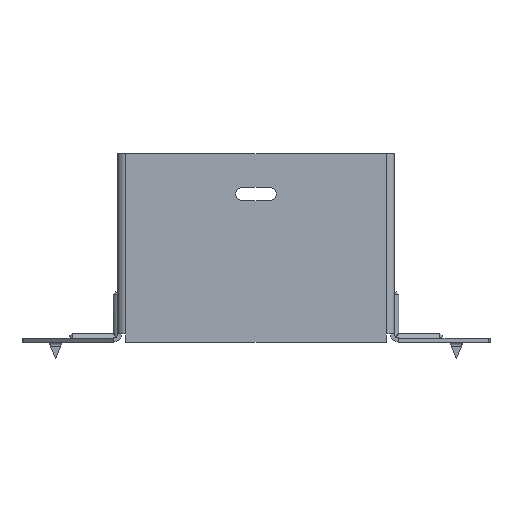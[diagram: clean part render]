
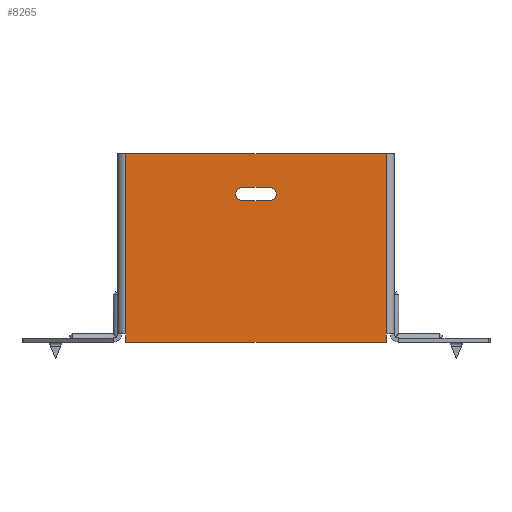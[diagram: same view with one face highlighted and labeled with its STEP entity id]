
A CAD part, front view. The second image highlights one B-rep face of the part: STEP entity #8265.
In plain terms, the highlighted planar face has unit normal (0, -1, 0).
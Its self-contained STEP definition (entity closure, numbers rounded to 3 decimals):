
#96 = DIRECTION ( 'NONE',  ( -1., 0., 0. ) ) ;
#169 = LINE ( 'NONE', #5902, #12468 ) ;
#525 = VECTOR ( 'NONE', #3708, 1000. ) ;
#640 = CARTESIAN_POINT ( 'NONE',  ( -48.5, 0., 0. ) ) ;
#748 = EDGE_LOOP ( 'NONE', ( #15293, #12878, #15558, #10838 ) ) ;
#891 = CARTESIAN_POINT ( 'NONE',  ( 5., 0., -12.5 ) ) ;
#1480 = ORIENTED_EDGE ( 'NONE', *, *, #6286, .T. ) ;
#1506 = CIRCLE ( 'NONE', #15189, 2.5 ) ;
#1630 = AXIS2_PLACEMENT_3D ( 'NONE', #13959, #10199, #10254 ) ;
#2237 = VERTEX_POINT ( 'NONE', #13781 ) ;
#2258 = LINE ( 'NONE', #10886, #525 ) ;
#2778 = EDGE_CURVE ( 'NONE', #2893, #8863, #9976, .T. ) ;
#2830 = CARTESIAN_POINT ( 'NONE',  ( 48.5, 0., -70. ) ) ;
#2893 = VERTEX_POINT ( 'NONE', #10475 ) ;
#3177 = LINE ( 'NONE', #7844, #4893 ) ;
#3708 = DIRECTION ( 'NONE',  ( 0., 0., 1. ) ) ;
#3745 = PLANE ( 'NONE',  #10349 ) ;
#3795 = CARTESIAN_POINT ( 'NONE',  ( 0., 0., 0. ) ) ;
#3934 = EDGE_CURVE ( 'NONE', #12226, #2237, #169, .T. ) ;
#3946 = ORIENTED_EDGE ( 'NONE', *, *, #5434, .T. ) ;
#4318 = EDGE_CURVE ( 'NONE', #8863, #12226, #10937, .T. ) ;
#4374 = DIRECTION ( 'NONE',  ( 0., 0., -1. ) ) ;
#4420 = VECTOR ( 'NONE', #6413, 1000. ) ;
#4701 = DIRECTION ( 'NONE',  ( -1., 0., 0. ) ) ;
#4784 = EDGE_CURVE ( 'NONE', #5167, #12093, #8826, .T. ) ;
#4867 = EDGE_CURVE ( 'NONE', #13124, #5871, #2258, .T. ) ;
#4893 = VECTOR ( 'NONE', #6547, 1000. ) ;
#5086 = ORIENTED_EDGE ( 'NONE', *, *, #4867, .T. ) ;
#5167 = VERTEX_POINT ( 'NONE', #5607 ) ;
#5434 = EDGE_CURVE ( 'NONE', #12992, #13124, #15496, .T. ) ;
#5488 = CARTESIAN_POINT ( 'NONE',  ( 5., 0., -17.5 ) ) ;
#5607 = CARTESIAN_POINT ( 'NONE',  ( -48.5, 0., 0. ) ) ;
#5871 = VERTEX_POINT ( 'NONE', #9584 ) ;
#5902 = CARTESIAN_POINT ( 'NONE',  ( -5., 0., -17.5 ) ) ;
#6029 = DIRECTION ( 'NONE',  ( 0., 0., 1. ) ) ;
#6042 = CARTESIAN_POINT ( 'NONE',  ( -48.5, 0., -70. ) ) ;
#6286 = EDGE_CURVE ( 'NONE', #12093, #9481, #10880, .T. ) ;
#6413 = DIRECTION ( 'NONE',  ( 1., 0., 0. ) ) ;
#6457 = VECTOR ( 'NONE', #4374, 1000. ) ;
#6547 = DIRECTION ( 'NONE',  ( 1., 0., 0. ) ) ;
#6879 = EDGE_CURVE ( 'NONE', #12992, #9481, #9328, .T. ) ;
#7581 = DIRECTION ( 'NONE',  ( 0., 0., 1. ) ) ;
#7595 = DIRECTION ( 'NONE',  ( 0., 0., 1. ) ) ;
#7844 = CARTESIAN_POINT ( 'NONE',  ( -50., 0., 0. ) ) ;
#8265 = ADVANCED_FACE ( 'NONE', ( #12688, #12288 ), #3745, .F. ) ;
#8425 = VECTOR ( 'NONE', #12158, 1000. ) ;
#8826 = LINE ( 'NONE', #12055, #8425 ) ;
#8863 = VERTEX_POINT ( 'NONE', #891 ) ;
#9070 = EDGE_CURVE ( 'NONE', #2237, #2893, #1506, .T. ) ;
#9328 = LINE ( 'NONE', #12033, #13950 ) ;
#9481 = VERTEX_POINT ( 'NONE', #6042 ) ;
#9584 = CARTESIAN_POINT ( 'NONE',  ( 48.5, 0., 0. ) ) ;
#9897 = DIRECTION ( 'NONE',  ( 0., 1., 0. ) ) ;
#9976 = LINE ( 'NONE', #15142, #4420 ) ;
#9993 = ORIENTED_EDGE ( 'NONE', *, *, #4784, .T. ) ;
#10178 = ORIENTED_EDGE ( 'NONE', *, *, #12756, .F. ) ;
#10199 = DIRECTION ( 'NONE',  ( 0., 1., 0. ) ) ;
#10254 = DIRECTION ( 'NONE',  ( 0., 0., 1. ) ) ;
#10349 = AXIS2_PLACEMENT_3D ( 'NONE', #3795, #9897, #6029 ) ;
#10475 = CARTESIAN_POINT ( 'NONE',  ( -5., 0., -12.5 ) ) ;
#10838 = ORIENTED_EDGE ( 'NONE', *, *, #4318, .T. ) ;
#10880 = LINE ( 'NONE', #640, #6457 ) ;
#10886 = CARTESIAN_POINT ( 'NONE',  ( 48.5, 0., -70. ) ) ;
#10937 = CIRCLE ( 'NONE', #1630, 2.5 ) ;
#11096 = VECTOR ( 'NONE', #7595, 1000. ) ;
#11325 = CARTESIAN_POINT ( 'NONE',  ( -5., 0., -15. ) ) ;
#11519 = CARTESIAN_POINT ( 'NONE',  ( 48.5, 0., -67. ) ) ;
#12033 = CARTESIAN_POINT ( 'NONE',  ( -50., 0., -70. ) ) ;
#12055 = CARTESIAN_POINT ( 'NONE',  ( -48.5, 0., 0. ) ) ;
#12093 = VERTEX_POINT ( 'NONE', #15886 ) ;
#12158 = DIRECTION ( 'NONE',  ( 0., 0., -1. ) ) ;
#12226 = VERTEX_POINT ( 'NONE', #5488 ) ;
#12288 = FACE_OUTER_BOUND ( 'NONE', #13430, .T. ) ;
#12468 = VECTOR ( 'NONE', #96, 1000. ) ;
#12688 = FACE_BOUND ( 'NONE', #748, .T. ) ;
#12756 = EDGE_CURVE ( 'NONE', #5167, #5871, #3177, .T. ) ;
#12878 = ORIENTED_EDGE ( 'NONE', *, *, #9070, .T. ) ;
#12992 = VERTEX_POINT ( 'NONE', #2830 ) ;
#13124 = VERTEX_POINT ( 'NONE', #11519 ) ;
#13430 = EDGE_LOOP ( 'NONE', ( #9993, #1480, #13695, #3946, #5086, #10178 ) ) ;
#13695 = ORIENTED_EDGE ( 'NONE', *, *, #6879, .F. ) ;
#13781 = CARTESIAN_POINT ( 'NONE',  ( -5., 0., -17.5 ) ) ;
#13950 = VECTOR ( 'NONE', #4701, 1000. ) ;
#13959 = CARTESIAN_POINT ( 'NONE',  ( 5., 0., -15. ) ) ;
#14913 = DIRECTION ( 'NONE',  ( 0., 1., 0. ) ) ;
#14928 = CARTESIAN_POINT ( 'NONE',  ( 48.5, 0., -70. ) ) ;
#15142 = CARTESIAN_POINT ( 'NONE',  ( -5., 0., -12.5 ) ) ;
#15189 = AXIS2_PLACEMENT_3D ( 'NONE', #11325, #14913, #7581 ) ;
#15293 = ORIENTED_EDGE ( 'NONE', *, *, #3934, .T. ) ;
#15496 = LINE ( 'NONE', #14928, #11096 ) ;
#15558 = ORIENTED_EDGE ( 'NONE', *, *, #2778, .T. ) ;
#15886 = CARTESIAN_POINT ( 'NONE',  ( -48.5, 0., -67. ) ) ;
